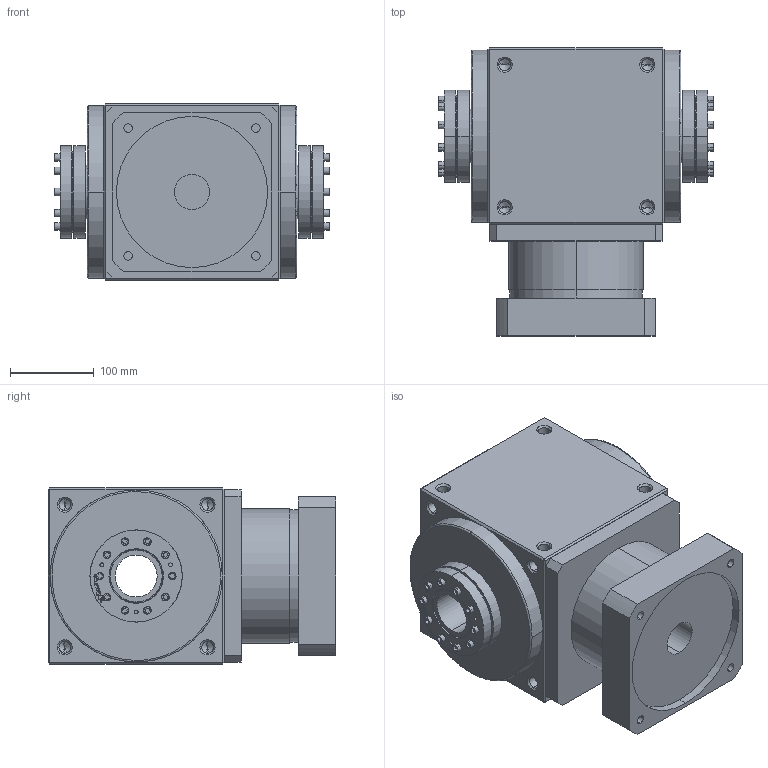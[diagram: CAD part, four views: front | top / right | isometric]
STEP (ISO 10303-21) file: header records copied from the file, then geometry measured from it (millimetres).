
FILE_DESCRIPTION (( 'STEP AP214' ), '1' );
FILE_NAME ('AT210-FC-L1--24-130-165-M10-B.STEP', '2020-11-20T06:13:02', ( '微软用户' ), ( '微软中国' ), 'SwSTEP 2.0', 'SolidWorks 2014', '' );
FILE_SCHEMA (( 'AUTOMOTIVE_DESIGN' ));
Length unit declared in the file: millimetre
Products named in the file (8): AT210-FH-001 42-180-215-M12; 83_62x110_4; AT210-FC-L1--24-130-165-M10-B; AT210-FC-L1-24-130-165-M10_1
Assembly tree (4 placements, depth 2):
  83_62x110_4
  AT210-FC-L1--24-130-165-M10-B
    AT210-FC-L1-24-130-165-M10_1
    83_62x110_4  x2
    AT210-FH-001 42-180-215-M12
  83_62x110_4
  AT210-FH-001 42-180-215-M12
  AT210-FC-L1-24-130-165-M10_1
Bounding box: 327.2 x 343 x 210 mm (x, y, z)
Volume: 13799414.7 mm3; surface area: 716632.9 mm2
Topology: 30 solids, 30 shells, 1390 faces, 3300 edges, 1996 vertices
Faces by surface type: cylinder 614, plane 356, cone 296, bspline 76, torus 48
Entity records: 25184 total; most frequent: CARTESIAN_POINT 5874, DIRECTION 3952, ORIENTED_EDGE 3856, EDGE_CURVE 1928, AXIS2_PLACEMENT_3D 1519, VERTEX_POINT 1176, EDGE_LOOP 942, VECTOR 914
